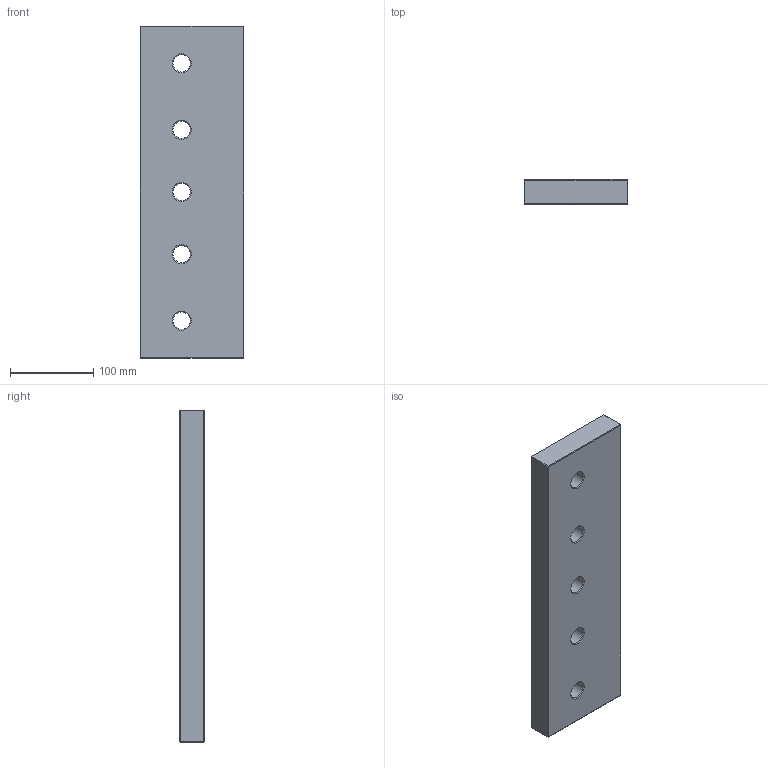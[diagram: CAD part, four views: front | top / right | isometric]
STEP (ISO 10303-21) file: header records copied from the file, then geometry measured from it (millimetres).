
FILE_DESCRIPTION(/* description */ ('Impex Ready, www.impex-ready.pl'),/* implementation_level */ '2;1');
FILE_NAME(/* name */ 'C:\Users\VIKKY\Nextcloud\SM\projekt 10 - części na stronę internetową\Pliki_3D_new\331 Płytki PG40\331 PG40_STEP\PG40.12530400.ipt.step',/* time_stamp */ '2021-12-19T19:01:28+01:00',/* author */ ('SM'),/* organization */ (''),/* preprocessor_version */ 'ST-DEVELOPER v18.1',/* originating_system */ 'Autodesk Inventor 2021',/* authorisation */ '');
FILE_SCHEMA (('AUTOMOTIVE_DESIGN { 1 0 10303 214 3 1 1 }'));
Length unit declared in the file: millimetre
Products named in the file (1): PG40.12530400
Bounding box: 125 x 30 x 400 mm (x, y, z)
Volume: 1446600.9 mm3; surface area: 136255.5 mm2
Topology: 1 solids, 1 shells, 42 faces, 91 edges, 51 vertices
Faces by surface type: plane 27, cone 10, cylinder 5
Full cylindrical faces by diameter (mm): 21 x5
Entity records: 1229 total; most frequent: DIRECTION 202, CARTESIAN_POINT 185, ORIENTED_EDGE 182, EDGE_CURVE 91, AXIS2_PLACEMENT_3D 68, LINE 66, VECTOR 66, EDGE_LOOP 52
